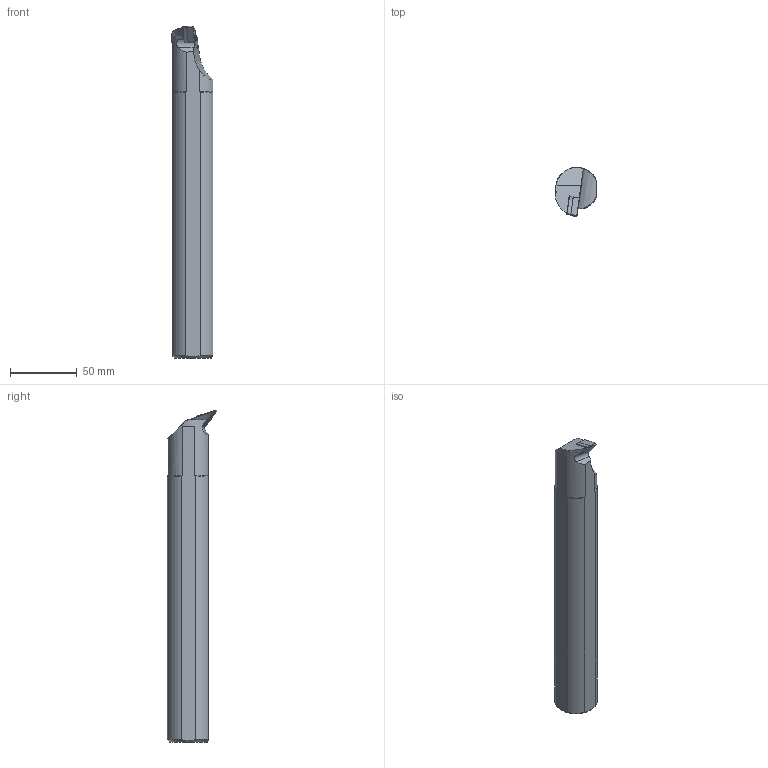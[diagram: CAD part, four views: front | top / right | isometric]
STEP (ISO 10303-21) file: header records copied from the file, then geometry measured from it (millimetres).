
FILE_DESCRIPTION(/* description */ (''),/* implementation_level */ '2;1');
FILE_NAME(/* name */ 'A32S-SVQBR-16-HAAS.stp',/* time_stamp */ '2021-09-29T12:07:34+09:00',/* author */ (''),/* organization */ (''),/* preprocessor_version */ 'ST-DEVELOPER v11',/* originating_system */ 'SIEMENS UGS NX 6.0',/* authorisation */ '');
FILE_SCHEMA (('CONFIG_CONTROL_DESIGN'));
Length unit declared in the file: millimetre
Products named in the file (1): user080E6460
Bounding box: 31.15 x 37.32 x 249.62 mm (x, y, z)
Volume: 180515.5 mm3; surface area: 26054 mm2
Topology: 3 solids, 3 shells, 46 faces, 116 edges, 74 vertices
Faces by surface type: plane 26, cylinder 10, cone 9, bspline 1
Full cylindrical faces by diameter (mm): 6.2 x1, 6.7 x1
Entity records: 1500 total; most frequent: CARTESIAN_POINT 350, ORIENTED_EDGE 216, DIRECTION 216, EDGE_CURVE 108, AXIS2_PLACEMENT_3D 77, VERTEX_POINT 71, LINE 62, VECTOR 62
